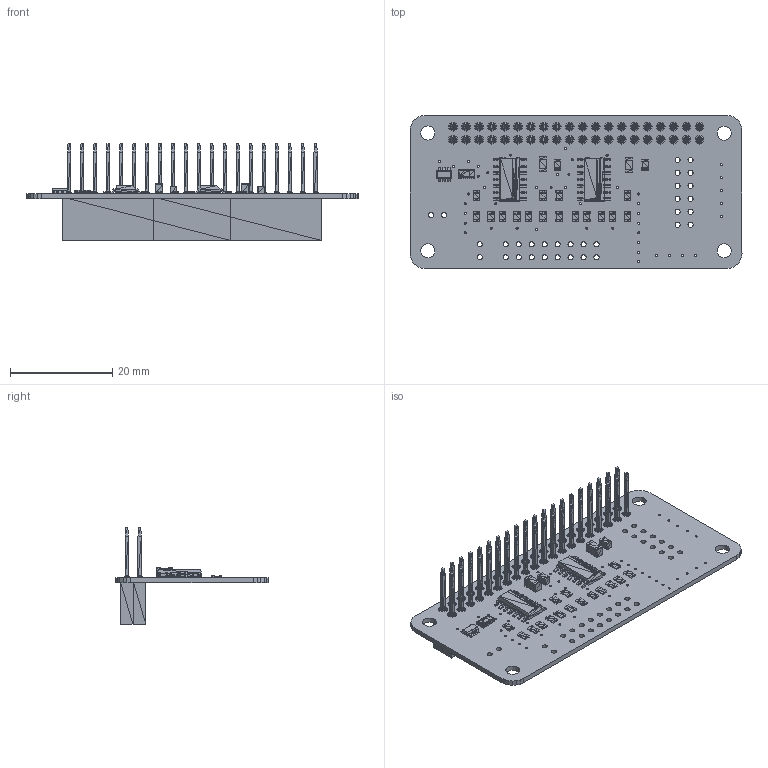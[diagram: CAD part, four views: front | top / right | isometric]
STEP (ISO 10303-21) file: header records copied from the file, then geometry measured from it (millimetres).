
FILE_DESCRIPTION(/* description */ (''),/* implementation_level */ '2;1');
FILE_NAME(/* name */ 'C:/Users/andrew/Desktop/3D Models/adc-pi-zero-1.0.step',/* time_stamp */ '2018-02-10T15:27:51+00:00',/* author */ ('and101'),/* organization */ (''),/* preprocessor_version */ 'ST-DEVELOPER v16.13',/* originating_system */ 'Autodesk Translation Framework v6.5.0.72',/* authorisation */ '');
FILE_SCHEMA (('AUTOMOTIVE_DESIGN { 1 0 10303 214 3 1 1 }'));
Products named in the file (9): adc-pi-zero-1.0; Board_adc-pi-zero; sot23-6; cap_0805; cap_1206; res_0805; rescav-8_1.6x3.2x0; soic-14_150mil; 40_way_header
Assembly tree (26 placements, depth 2):
  adc-pi-zero-1.0
    Board_adc-pi-zero
    sot23-6
    cap_0805  x2
    cap_1206  x2
    res_0805  x16
    rescav-8_1.6x3.2x0
    soic-14_150mil  x2
    40_way_header
Bounding box: 65 x 30 x 18.97 mm (x, y, z)
Volume: 4890.5 mm3; surface area: 9421 mm2
Topology: 164 solids, 164 shells, 29446 faces, 44730 edges, 15604 vertices
Faces by surface type: plane 29265, cylinder 145, bspline 36
Full cylindrical faces by diameter (mm): 0.406 x49, 1 x72, 2.75 x4
Entity records: 525907 total; most frequent: DIRECTION 93740, CARTESIAN_POINT 82353, ORIENTED_EDGE 80588, EDGE_CURVE 40294, LINE 39674, VECTOR 39674, AXIS2_PLACEMENT_3D 27033, EDGE_LOOP 26744
